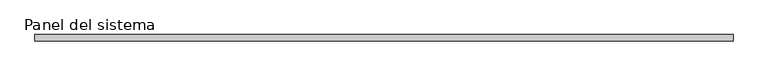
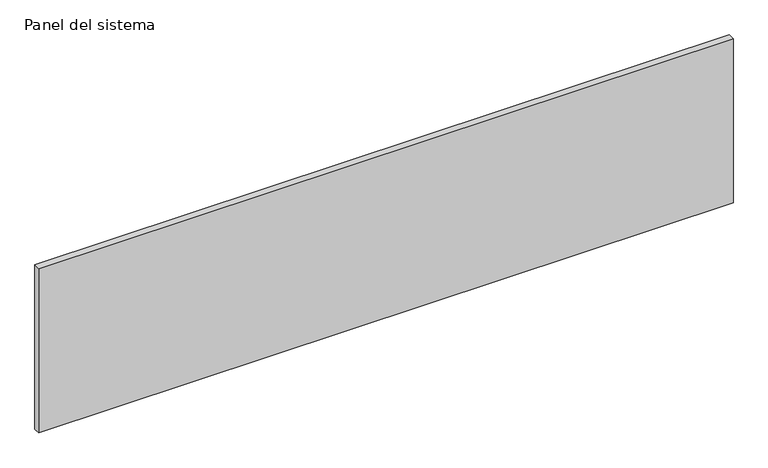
"""IFC4 building model written with IfcOpenShell, lengths in millimetres: plate geometry, Panel del sistema : Hiansa Panel - Fachada Panel PERFILADO Hor - 40mm."""

from ifc_helpers import new_model, si_unit, origin, origin_with_axes, place, context, project, spatial, polyline, outline, extrude, source, transform, mapped, element, save


def panel_del_sistema_1ea75978(model_context):
    return source(origin(), model_context, "Body", "SweptSolid", [
        extrude(outline(polyline([(2200.0, -40.0), (-2200.0, -40.0), (-2200.0, 0.0), (2200.0, 0.0), (2200.0, -40.0)])), origin_with_axes(), (0.0, 0.0, 1.0), 1100.0),
    ])


if __name__ == "__main__":
    model = new_model("IFC4")
    model_context = context("Model", 3, world=origin())
    ifc_project = project(units=[si_unit("LENGTHUNIT", "METRE", prefix="MILLI")], contexts=[model_context])
    site = spatial("IfcSite", under=ifc_project)
    building = spatial("IfcBuilding", under=site)
    placement = place(None, origin())
    panel_del_sistema_shape = panel_del_sistema_1ea75978(model_context)
    element("IfcPlate", 1, ObjectType="Panel del sistema : Hiansa Panel - Fachada Panel PERFILADO Hor - 40mm", at=placement, inside=building, context=model_context, shape_type="MappedRepresentation", body=[
        mapped(panel_del_sistema_shape, transform((0.0, 0.0, 0.0), x_axis=(1.0, 0.0, 0.0), y_axis=(0.0, 1.0, 0.0), z_axis=(0.0, 0.0, 1.0))),
    ])
    save(model, "model.ifc")
